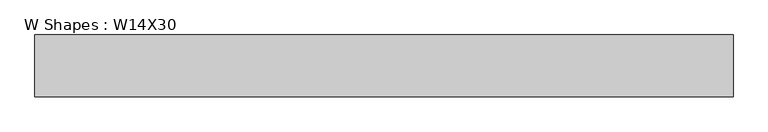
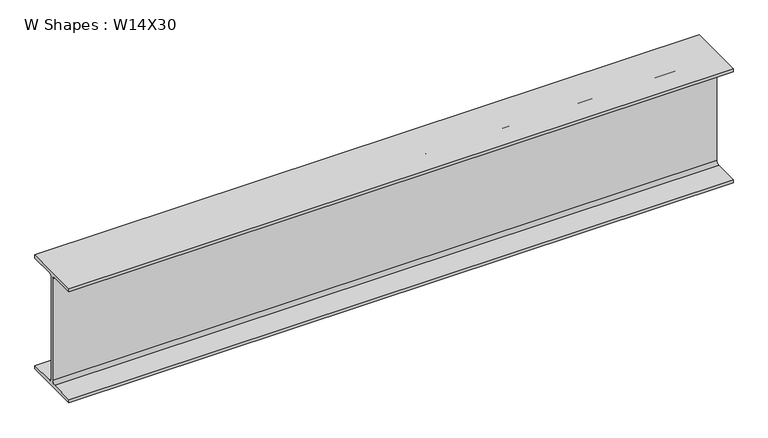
"""IFC4 building model written with IfcOpenShell, lengths in millimetres: beam geometry, W Shapes : W14X30."""

from ifc_helpers import new_model, si_unit, point, frame, frame_2d, origin, place, context, project, spatial, polyline, circle_curve, trimmed, segment, composite_curve, outline, extrude, source, transform, mapped, element, save


def w_shapes_w14x30_53f6a439(model_context):
    return source(origin(), model_context, "Body", "SweptSolid", [
        extrude(outline(composite_curve([segment(polyline([(85.471, -165.354), (85.471, -175.26), (-85.471, -175.26), (-85.471, -165.354), (-13.589, -165.354)]), True, "CONTINUOUS"), segment(trimmed(circle_curve(frame_2d((-13.589, -155.194)), 10.16), [point((-13.589, -165.354))], [point((-3.429, -155.194))], True, "CARTESIAN"), True, "CONTINUOUS"), segment(polyline([(-3.429, -155.194), (-3.429, 155.194)]), True, "CONTINUOUS"), segment(trimmed(circle_curve(frame_2d((-13.589, 155.194)), 10.16), [point((-3.429, 155.194))], [point((-13.589, 165.354))], True, "CARTESIAN"), True, "CONTINUOUS"), segment(polyline([(-13.589, 165.354), (-85.471, 165.354), (-85.471, 175.26), (85.471, 175.26), (85.471, 165.354), (13.589, 165.354)]), True, "CONTINUOUS"), segment(trimmed(circle_curve(frame_2d((13.589, 155.194)), 10.16), [point((13.589, 165.354))], [point((3.429, 155.194))], True, "CARTESIAN"), True, "CONTINUOUS"), segment(polyline([(3.429, 155.194), (3.429, -155.194)]), True, "CONTINUOUS"), segment(trimmed(circle_curve(frame_2d((13.589, -155.194)), 10.16), [point((3.429, -155.194))], [point((13.589, -165.354))], True, "CARTESIAN"), True, "CONTINUOUS"), segment(polyline([(13.589, -165.354), (85.471, -165.354)]), True, "CONTINUOUS")], self_intersect=False)), frame((-862.1489239, 0.0, 0.0), z_axis=(1.0, 0.0, 0.0), x_axis=(0.0, 1.0, 0.0)), (0.0, 0.0, 1.0), 1929.763636),
    ])


if __name__ == "__main__":
    model = new_model("IFC4")
    model_context = context("Model", 3, world=origin())
    ifc_project = project(units=[si_unit("LENGTHUNIT", "METRE", prefix="MILLI")], contexts=[model_context])
    site = spatial("IfcSite", under=ifc_project)
    building = spatial("IfcBuilding", under=site)
    placement = place(None, origin())
    w_shapes_w14x30_shape = w_shapes_w14x30_53f6a439(model_context)
    element("IfcBeam", 1, ObjectType="W Shapes : W14X30", at=placement, inside=building, context=model_context, shape_type="MappedRepresentation", body=[
        mapped(w_shapes_w14x30_shape, transform((0.0, 0.0, 0.0), x_axis=(1.0, 0.0, 0.0), y_axis=(0.0, 1.0, 0.0), z_axis=(0.0, 0.0, 1.0))),
    ])
    save(model, "model.ifc")
